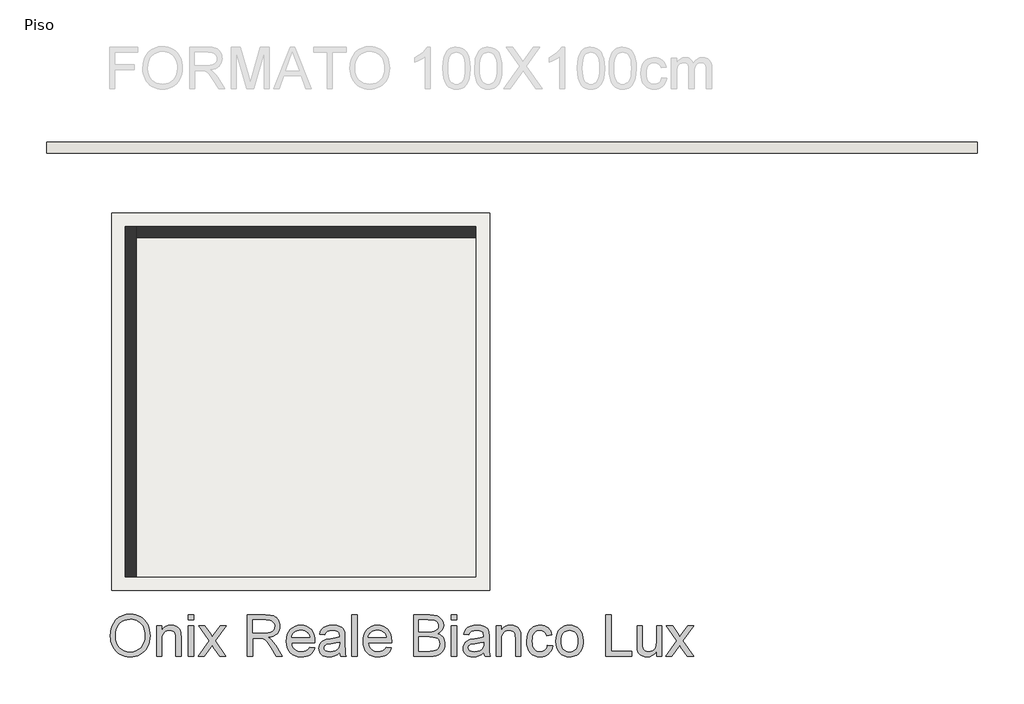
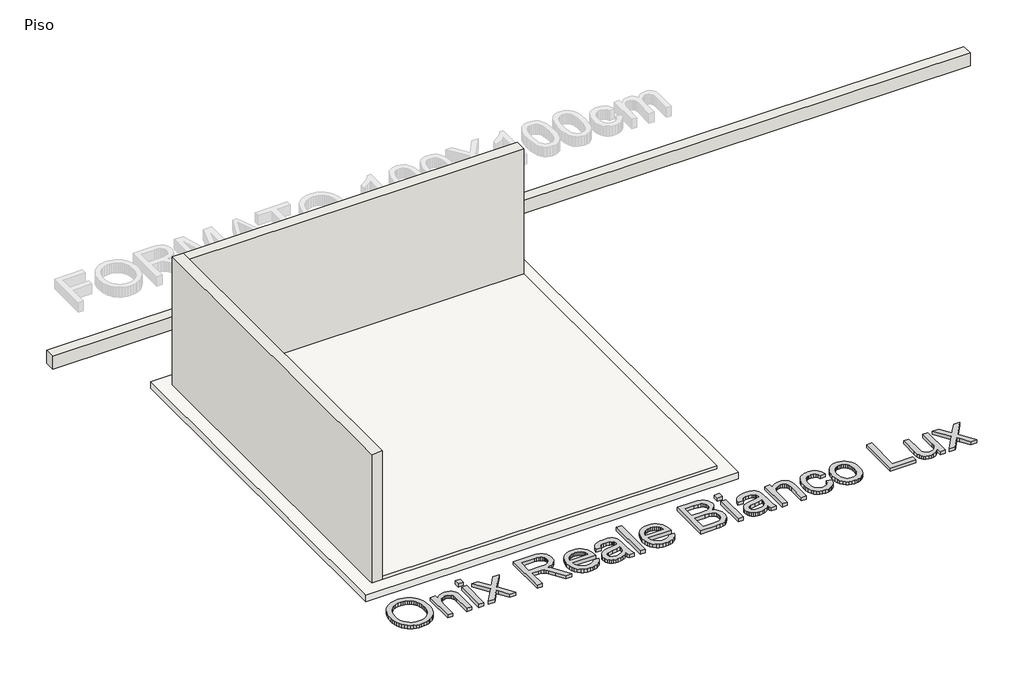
# One storey, part 1 of 2: 3 walls, 2 slabs, 1 proxy.
"""IFC4 building model written with IfcOpenShell, lengths in millimetres."""

from ifc_helpers import new_model, si_unit, frame, origin, origin_with_axes, place, context, project, spatial, polyline, outline, extrude, faceted_brep, element, save

model = new_model("IFC4")

# Units and contexts
model_context = context("Model", 3, world=origin())
ifc_project = project(units=[si_unit("LENGTHUNIT", "METRE", prefix="MILLI")], contexts=[model_context])

# Site, building, storey
site = spatial("IfcSite", under=ifc_project)
building = spatial("IfcBuilding", under=site)
storey = spatial("IfcBuildingStorey", under=building, Name="Piso", Elevation=0.0)

# Proxy
placement = place(None, origin())
element("IfcBuildingElementProxy", 1, Name="600mm Arial", ObjectType="600mm Arial", at=placement, inside=storey, context=model_context, shape_type="SweptSolid", body=[
    extrude(outline(polyline([(92612.6332015, -5241.8524376), (92617.6547907, -5171.1547152), (92632.7195584, -5108.5687907), (92657.8275046, -5054.0946643), (92674.1476696, -5029.8995253), (92692.9786292, -5007.7323359), (92736.0668079, -4970.7142101), (92784.9859162, -4944.2726917), (92839.7359542, -4928.4077807), (92900.3169217, -4923.119477), (92940.8667146, -4925.6026804), (92979.3747625, -4933.0522908), (93015.8410652, -4945.4683082), (93050.2656229, -4962.8507325), (93081.6827453, -4984.6753318), (93109.1267422, -5010.4178744), (93132.5976135, -5040.0783603), (93152.0953592, -5073.6567894), (93167.4176443, -5110.3898066), (93178.3621337, -5149.5140568), (93184.9288273, -5191.02954), (93187.1177251, -5234.9362561), (93184.8138642, -5279.4223864), (93177.9022812, -5321.4988896), (93166.3829762, -5361.1657657), (93150.2559492, -5398.4230147), (93129.9028778, -5432.2865524), (93105.7054396, -5461.7722943), (93077.6636345, -5486.8802405), (93045.7774626, -5507.6103909), (93011.3023211, -5523.8339869), (92975.4936074, -5535.4222698), (92938.3513215, -5542.3752395), (92899.8754633, -5544.692896), (92858.6174976, -5542.1315176), (92819.603612, -5534.4473825), (92782.8338065, -5521.6404905), (92748.3080813, -5503.7108418), (92716.9277471, -5481.3528135), (92689.5941149, -5455.260783), (92666.3071846, -5425.4347502), (92647.0669562, -5391.8747152), (92632.0021885, -5355.9280458), (92621.2416402, -5318.9421097), (92614.7853112, -5280.916907), (92612.6332015, -5241.8524376)]), holes=[polyline([(92687.9754341, -5242.5882016), (92691.741626, -5292.5373795), (92703.0402018, -5336.876357), (92721.8711614, -5375.605134), (92748.2345049, -5408.7237106), (92780.2816252, -5435.2480025), (92816.1639153, -5454.1939252), (92855.8813752, -5465.5614789), (92899.4340049, -5469.3506634), (92943.7315957, -5465.5246907), (92983.9181051, -5454.0467724), (93019.9935333, -5434.9169087), (93051.9578801, -5408.1350994), (93078.1280856, -5374.317547), (93096.8210894, -5334.0804538), (93108.0368918, -5287.4238198), (93111.7754925, -5234.3476449), (93110.1752059, -5199.8679049), (93105.3743458, -5167.6506392), (93097.3729124, -5137.6958477), (93086.1709057, -5110.0035305), (93071.8924857, -5084.9369711), (93054.6618128, -5062.8594528), (93034.4788868, -5043.7709758), (93011.3437079, -5027.67154), (92985.9736458, -5014.8922392), (92959.0860704, -5005.7641672), (92930.6809819, -5000.287324), (92900.7583801, -4998.4617096), (92858.7186651, -5001.9795812), (92819.7139766, -5012.5331959), (92783.7443145, -5030.1225538), (92750.8096789, -5054.7476549), (92723.3196968, -5087.5949185), (92703.6839953, -5129.8507642), (92691.9025744, -5181.5151919), (92687.9754341, -5242.5882016)])]), origin_with_axes(), (0.0, 0.0, 1.0), 50.0),
    extrude(outline(polyline([(93281.2955159, -5535.275117), (93281.2955159, -5092.6395004), (93356.6377485, -5092.6395004), (93356.6377485, -5154.4436755), (93382.8125525, -5123.2840706), (93414.248069, -5101.0272098), (93450.944298, -5087.6730934), (93492.9012395, -5083.2217213), (93530.038927, -5086.8085707), (93564.0496174, -5097.5691191), (93592.4133192, -5114.1605971), (93612.6100408, -5135.2402354), (93626.3136451, -5160.7528518), (93635.1979953, -5190.6432639), (93639.1711208, -5263.4838989), (93639.1711208, -5535.275117), (93563.8288882, -5535.275117), (93563.8288882, -5273.637442), (93561.6583844, -5234.6787387), (93555.1468731, -5206.9772245), (93543.135526, -5187.1299908), (93524.4655147, -5171.7341293), (93500.5347909, -5161.8564977), (93472.7413062, -5158.5639539), (93449.8636446, -5160.4125609), (93428.6138609, -5165.958382), (93408.991955, -5175.2014171), (93390.9979269, -5188.1416663), (93375.9653488, -5206.2506575), (93365.2277931, -5230.9999187), (93358.7852597, -5262.38945), (93356.6377485, -5300.4192512), (93356.6377485, -5535.275117), (93281.2955159, -5535.275117)])), origin_with_axes(), (0.0, 0.0, 1.0), 50.0),
    extrude(outline(polyline([(93742.7666907, -5007.8794887), (93742.7666907, -4932.5372561), (93818.1089233, -4932.5372561), (93818.1089233, -5007.8794887), (93742.7666907, -5007.8794887)])), origin_with_axes(), (0.0, 0.0, 1.0), 50.0),
    extrude(outline(polyline([(93742.7666907, -5535.275117), (93742.7666907, -5092.6395004), (93818.1089233, -5092.6395004), (93818.1089233, -5535.275117), (93742.7666907, -5535.275117)])), origin_with_axes(), (0.0, 0.0, 1.0), 50.0),
    extrude(outline(polyline([(93884.0333768, -5535.275117), (94045.0185379, -5312.7800863), (93893.4511559, -5092.6395004), (93984.0972795, -5092.6395004), (94057.2322201, -5198.589515), (94091.3716693, -5248.6214663), (94120.9493817, -5207.7129884), (94204.2378654, -5092.6395004), (94294.883989, -5092.6395004), (94135.6646615, -5312.7800863), (94288.9978771, -5535.275117), (94198.3517535, -5535.275117), (94106.0869491, -5401.5132235), (94089.1643773, -5377.085859), (93974.6795004, -5535.275117), (93884.0333768, -5535.275117)])), origin_with_axes(), (0.0, 0.0, 1.0), 50.0),
    extrude(outline(polyline([(94599.7845866, -5535.275117), (94599.7845866, -4932.5372561), (94859.5092752, -4932.5372561), (94929.3148838, -4936.6023521), (94980.1009932, -4948.7976402), (94999.6999065, -4958.4913308), (95017.2202866, -4971.3120183), (95032.6621333, -4987.2597028), (95046.0254468, -5006.3343843), (95056.8089878, -5027.5105916), (95064.511517, -5049.7628538), (95069.1330346, -5073.0911708), (95070.6735405, -5097.4955427), (95068.1213591, -5128.4528126), (95060.4648151, -5156.8716967), (95047.7039084, -5182.7521951), (95029.838639, -5206.0943077), (95006.6390807, -5226.1530735), (94977.8753072, -5242.1835314), (94943.5473185, -5254.1856815), (94903.6551146, -5262.1595237), (94928.4871493, -5278.3831197), (94946.4765789, -5294.3859865), (94977.3418783, -5330.990245), (95007.5449901, -5371.9355111), (95108.0503512, -5535.275117), (95020.4944363, -5535.275117), (94942.0619949, -5410.3423914), (94885.4081677, -5327.6425189), (94864.3469235, -5303.5278541), (94845.6033358, -5288.573451), (94809.7716295, -5274.2260532), (94766.0672484, -5271.5773028), (94675.1268192, -5271.5773028), (94675.1268192, -5535.275117), (94599.7845866, -5535.275117)]), holes=[polyline([(94675.1268192, -5196.2350702), (94843.7639258, -5196.2350702), (94892.1955905, -5193.5679257), (94929.7747363, -5185.5664923), (94958.0648617, -5171.6973411), (94978.6294653, -5151.4270432), (94991.1558472, -5126.9077082), (94995.3313078, -5100.2914459), (94993.3401465, -5081.0236264), (94987.3666626, -5063.5400345), (94977.4108562, -5047.8406704), (94963.4727271, -5033.9255339), (94945.2303786, -5022.5303891), (94922.3619141, -5014.391), (94894.8673335, -5009.5073665), (94862.7466368, -5007.8794887), (94675.1268192, -5007.8794887), (94675.1268192, -5196.2350702)])]), origin_with_axes(), (0.0, 0.0, 1.0), 50.0),
    extrude(outline(polyline([(95503.0084612, -5403.4262099), (95576.8791658, -5412.843989), (95565.5529989, -5442.4308984), (95550.2629035, -5468.5045348), (95531.0088795, -5491.0648982), (95507.7909271, -5510.1119885), (95480.8481695, -5525.2411355), (95450.41973, -5536.0476691), (95416.5056085, -5542.5315893), (95379.1058052, -5544.692896), (95332.3572007, -5540.9634923), (95290.7037618, -5529.7752811), (95254.1454885, -5511.1282625), (95222.6823809, -5485.0224364), (95197.3812966, -5452.1843698), (95179.3090936, -5413.3406297), (95168.4657718, -5368.4912159), (95164.8513312, -5317.6361286), (95168.50256, -5265.0565944), (95179.4562464, -5218.7126601), (95197.7123904, -5178.6043256), (95223.2709921, -5144.7315909), (95254.6513262, -5117.8210229), (95290.372668, -5098.5991887), (95330.4350172, -5087.0660881), (95374.8383741, -5083.2217213), (95417.8115896, -5087.0568911), (95456.6737239, -5098.5624005), (95491.4247769, -5117.7382495), (95522.0647485, -5144.5844381), (95547.0761257, -5178.3835964), (95564.9413951, -5218.4183545), (95575.6605567, -5264.6887125), (95579.2336106, -5317.1946702), (95578.7921522, -5337.5017563), (95240.1935638, -5337.5017563), (95244.557564, -5367.5669124), (95253.2349806, -5393.8980662), (95266.2258135, -5416.4952178), (95283.5300629, -5435.3583671), (95304.1912354, -5450.2299967), (95327.252838, -5460.8525893), (95352.7148706, -5467.2261449), (95380.5773332, -5469.3506634), (95420.6764707, -5465.4143261), (95454.4480378, -5453.605314), (95481.8920347, -5433.1878633), (95503.0084612, -5403.4262099)]), holes=[polyline([(95240.1935638, -5262.1595237), (95503.891378, -5262.1595237), (95493.7010467, -5222.3546919), (95484.9362582, -5206.701313), (95473.7250544, -5193.8806254), (95453.1788449, -5178.4295816), (95429.7999441, -5167.3931218), (95403.588352, -5160.7712459), (95374.5440685, -5158.5639539), (95348.0519663, -5160.3251889), (95323.757959, -5165.6088941), (95301.6620467, -5174.4150694), (95281.7642293, -5186.7437147), (95265.0669852, -5202.0246131), (95252.572793, -5219.6875474), (95244.2816525, -5239.7325176), (95240.1935638, -5262.1595237)])]), origin_with_axes(), (0.0, 0.0, 1.0), 50.0),
    extrude(outline(polyline([(95937.1092155, -5478.7684425), (95901.1119623, -5509.6337419), (95864.0478513, -5529.8304634), (95825.0707539, -5540.9772879), (95783.3345415, -5544.692896), (95749.7883021, -5542.4580129), (95720.371538, -5535.7533635), (95695.0842494, -5524.5789479), (95673.9264361, -5508.9347661), (95657.219995, -5489.8140994), (95645.2868228, -5468.2102292), (95638.1269195, -5444.1231556), (95635.740285, -5417.5528785), (95639.3455286, -5386.3196971), (95650.1612593, -5357.9559953), (95666.8447077, -5333.6757836), (95688.0531048, -5314.6930726), (95712.9771099, -5300.3456748), (95740.8073829, -5289.9714026), (95805.9960724, -5278.6406371), (95883.0305622, -5266.7212605), (95936.6677571, -5252.7417447), (95937.1092155, -5235.9663257), (95931.9220794, -5202.3419113), (95925.4381592, -5189.8891058), (95916.360671, -5180.342568), (95900.6705039, -5170.8144243), (95881.5590342, -5164.0086074), (95833.0721873, -5158.5639539), (95788.1905838, -5162.1875915), (95756.8470379, -5173.0585045), (95735.4730939, -5193.1632555), (95720.5002967, -5224.4884074), (95645.1580641, -5215.0706284), (95658.2362691, -5173.8678449), (95677.7524089, -5141.4942293), (95705.5274995, -5116.735771), (95743.3825568, -5098.3784595), (95789.6805059, -5087.0109058), (95842.7842719, -5083.2217213), (95893.7175342, -5086.5694474), (95934.0925831, -5096.6126259), (95964.5348182, -5111.7141818), (95985.6696389, -5130.2370403), (95999.6859429, -5153.1376945), (96008.7726282, -5181.3726376), (96012.4514481, -5247.2970911), (96012.4514481, -5341.0334235), (96016.2774209, -5471.9258374), (96021.9428036, -5504.2810589), (96031.2870063, -5535.275117), (95955.9447736, -5535.275117), (95943.8782442, -5509.0819189), (95937.1092155, -5478.7684425)]), holes=[polyline([(95937.1092155, -5328.0839773), (95886.488653, -5340.6287533), (95815.5610043, -5351.1869666), (95750.7401967, -5363.4006488), (95733.8728073, -5371.7515701), (95721.3832135, -5383.2662765), (95713.6576916, -5397.0618514), (95711.0825177, -5412.2553778), (95716.6927181, -5434.6593913), (95733.5233194, -5453.0167028), (95761.2064395, -5465.2671733), (95799.3741965, -5469.3506634), (95839.841216, -5464.844109), (95875.5993459, -5451.3244457), (95904.5884471, -5431.4036356), (95924.7483805, -5407.693641), (95933.6879129, -5383.2662765), (95936.6677571, -5349.421133), (95937.1092155, -5328.0839773)])]), origin_with_axes(), (0.0, 0.0, 1.0), 50.0),
    extrude(outline(polyline([(96116.0470179, -5535.275117), (96116.0470179, -4932.5372561), (96191.3892506, -4932.5372561), (96191.3892506, -5535.275117), (96116.0470179, -5535.275117)])), origin_with_axes(), (0.0, 0.0, 1.0), 50.0),
    extrude(outline(polyline([(96614.3063922, -5403.4262099), (96688.1770968, -5412.843989), (96676.8509299, -5442.4308984), (96661.5608345, -5468.5045348), (96642.3068106, -5491.0648982), (96619.0888582, -5510.1119885), (96592.1461005, -5525.2411355), (96561.717661, -5536.0476691), (96527.8035396, -5542.5315893), (96490.4037362, -5544.692896), (96443.6551317, -5540.9634923), (96402.0016928, -5529.7752811), (96365.4434195, -5511.1282625), (96333.9803119, -5485.0224364), (96308.6792277, -5452.1843698), (96290.6070247, -5413.3406297), (96279.7637029, -5368.4912159), (96276.1492622, -5317.6361286), (96279.8004911, -5265.0565944), (96290.7541775, -5218.7126601), (96309.0103215, -5178.6043256), (96334.5689231, -5144.7315909), (96365.9492573, -5117.8210229), (96401.670599, -5098.5991887), (96441.7329483, -5087.0660881), (96486.1363051, -5083.2217213), (96529.1095207, -5087.0568911), (96567.9716549, -5098.5624005), (96602.7227079, -5117.7382495), (96633.3626796, -5144.5844381), (96658.3740567, -5178.3835964), (96676.2393261, -5218.4183545), (96686.9584877, -5264.6887125), (96690.5315416, -5317.1946702), (96690.0900832, -5337.5017563), (96351.4914949, -5337.5017563), (96355.855495, -5367.5669124), (96364.5329116, -5393.8980662), (96377.5237445, -5416.4952178), (96394.8279939, -5435.3583671), (96415.4891664, -5450.2299967), (96438.550769, -5460.8525893), (96464.0128016, -5467.2261449), (96491.8752642, -5469.3506634), (96531.9744017, -5465.4143261), (96565.7459689, -5453.605314), (96593.1899657, -5433.1878633), (96614.3063922, -5403.4262099)]), holes=[polyline([(96351.4914949, -5262.1595237), (96615.189309, -5262.1595237), (96604.9989777, -5222.3546919), (96596.2341892, -5206.701313), (96585.0229854, -5193.8806254), (96564.476776, -5178.4295816), (96541.0978752, -5167.3931218), (96514.886283, -5160.7712459), (96485.8419995, -5158.5639539), (96459.3498973, -5160.3251889), (96435.0558901, -5165.6088941), (96412.9599777, -5174.4150694), (96393.0621603, -5186.7437147), (96376.3649163, -5202.0246131), (96363.870724, -5219.6875474), (96355.5795835, -5239.7325176), (96351.4914949, -5262.1595237)])]), origin_with_axes(), (0.0, 0.0, 1.0), 50.0),
    extrude(outline(polyline([(97010.7360302, -5535.275117), (97010.7360302, -4932.5372561), (97240.7358536, -4932.5372561), (97303.9931627, -4936.9702341), (97353.3813205, -4950.2691682), (97373.4584804, -4960.3261423), (97391.2363778, -4972.7651522), (97406.7150128, -4987.5861981), (97419.8943853, -5004.7892799), (97437.9389971, -5042.4603962), (97443.9538677, -5081.8973461), (97438.8954903, -5118.1889049), (97423.720358, -5152.30996), (97398.3181062, -5182.1635839), (97362.5783704, -5205.6528493), (97385.3180762, -5215.3465398), (97405.2710759, -5227.9464982), (97422.4373695, -5243.4527243), (97436.816957, -5261.8652181), (97448.1799122, -5282.6229597), (97456.2963087, -5305.164929), (97461.1661466, -5329.4911259), (97462.7894259, -5355.6015505), (97458.3564478, -5397.6320685), (97445.0575137, -5436.6091658), (97425.2102801, -5469.7553336), (97401.1324035, -5494.2930627), (97371.6466616, -5512.0617631), (97335.575832, -5524.9008447), (97291.7426922, -5532.6815489), (97238.97002, -5535.275117), (97010.7360302, -5535.275117)]), holes=[polyline([(97086.0782628, -5177.399512), (97223.666129, -5177.399512), (97271.785094, -5175.7808313), (97304.0115568, -5170.9247889), (97332.1361353, -5159.7595704), (97352.3512509, -5143.0393337), (97364.5465391, -5121.0215963), (97368.6116351, -5093.9638755), (97364.8224506, -5067.6971011), (97353.4548969, -5044.814841), (97335.024009, -5026.9541701), (97310.0448215, -5015.7521634), (97271.7115176, -5009.8476573), (97213.2182804, -5007.8794887), (97086.0782628, -5007.8794887), (97086.0782628, -5177.399512)]), polyline([(97086.0782628, -5459.9328843), (97240.5887008, -5459.9328843), (97296.5067641, -5456.9898284), (97322.4608388, -5450.459923), (97343.8163887, -5440.5822914), (97361.1804188, -5426.4372287), (97375.1599346, -5407.1050298), (97384.3753786, -5383.4502175), (97387.4471933, -5356.3373145), (97383.8419497, -5324.8466157), (97373.0262191, -5297.7705009), (97354.1354786, -5276.598892), (97326.3052057, -5262.8217113), (97286.8866499, -5255.2617363), (97233.2310609, -5252.7417447), (97086.0782628, -5252.7417447), (97086.0782628, -5459.9328843)])]), origin_with_axes(), (0.0, 0.0, 1.0), 50.0),
    extrude(outline(polyline([(97556.9672167, -5535.275117), (97556.9672167, -5092.6395004), (97632.3094493, -5092.6395004), (97632.3094493, -5535.275117), (97556.9672167, -5535.275117)])), origin_with_axes(), (0.0, 0.0, 1.0), 50.0),
    extrude(outline(polyline([(97556.9672167, -5007.8794887), (97556.9672167, -4932.5372561), (97632.3094493, -4932.5372561), (97632.3094493, -5007.8794887), (97556.9672167, -5007.8794887)])), origin_with_axes(), (0.0, 0.0, 1.0), 50.0),
    extrude(outline(polyline([(98027.8561705, -5478.7684425), (97991.8589173, -5509.6337419), (97954.7948062, -5529.8304634), (97915.8177089, -5540.9772879), (97874.0814965, -5544.692896), (97840.5352571, -5542.4580129), (97811.118493, -5535.7533635), (97785.8312044, -5524.5789479), (97764.6733911, -5508.9347661), (97747.96695, -5489.8140994), (97736.0337778, -5468.2102292), (97728.8738745, -5444.1231556), (97726.48724, -5417.5528785), (97730.0924836, -5386.3196971), (97740.9082142, -5357.9559953), (97757.5916627, -5333.6757836), (97778.8000597, -5314.6930726), (97803.7240649, -5300.3456748), (97831.5543379, -5289.9714026), (97896.7430274, -5278.6406371), (97973.7775172, -5266.7212605), (98027.4147121, -5252.7417447), (98027.8561705, -5235.9663257), (98022.6690344, -5202.3419113), (98016.1851142, -5189.8891058), (98007.107626, -5180.342568), (97991.4174589, -5170.8144243), (97972.3059892, -5164.0086074), (97923.8191422, -5158.5639539), (97878.9375388, -5162.1875915), (97847.5939928, -5173.0585045), (97826.2200489, -5193.1632555), (97811.2472517, -5224.4884074), (97735.9050191, -5215.0706284), (97748.983224, -5173.8678449), (97768.4993639, -5141.4942293), (97796.2744545, -5116.735771), (97834.1295118, -5098.3784595), (97880.4274609, -5087.0109058), (97933.5312269, -5083.2217213), (97984.4644892, -5086.5694474), (98024.8395381, -5096.6126259), (98055.2817732, -5111.7141818), (98076.4165938, -5130.2370403), (98090.4328979, -5153.1376945), (98099.5195831, -5181.3726376), (98103.1984031, -5247.2970911), (98103.1984031, -5341.0334235), (98107.0243758, -5471.9258374), (98112.6897586, -5504.2810589), (98122.0339612, -5535.275117), (98046.6917286, -5535.275117), (98034.6251992, -5509.0819189), (98027.8561705, -5478.7684425)]), holes=[polyline([(98027.8561705, -5328.0839773), (97977.2356079, -5340.6287533), (97906.3079593, -5351.1869666), (97841.4871517, -5363.4006488), (97824.6197622, -5371.7515701), (97812.1301685, -5383.2662765), (97804.4046466, -5397.0618514), (97801.8294726, -5412.2553778), (97807.4396731, -5434.6593913), (97824.2702744, -5453.0167028), (97851.9533945, -5465.2671733), (97890.1211515, -5469.3506634), (97930.588171, -5464.844109), (97966.3463009, -5451.3244457), (97995.3354021, -5431.4036356), (98015.4953354, -5407.693641), (98024.4348679, -5383.2662765), (98027.4147121, -5349.421133), (98027.8561705, -5328.0839773)])]), origin_with_axes(), (0.0, 0.0, 1.0), 50.0),
    extrude(outline(polyline([(98206.7939729, -5535.275117), (98206.7939729, -5092.6395004), (98282.1362055, -5092.6395004), (98282.1362055, -5154.4436755), (98308.3110095, -5123.2840706), (98339.746526, -5101.0272098), (98376.442755, -5087.6730934), (98418.3996966, -5083.2217213), (98455.537384, -5086.8085707), (98489.5480744, -5097.5691191), (98517.9117763, -5114.1605971), (98538.1084978, -5135.2402354), (98551.8121021, -5160.7528518), (98560.6964523, -5190.6432639), (98564.6695778, -5263.4838989), (98564.6695778, -5535.275117), (98489.3273452, -5535.275117), (98489.3273452, -5273.637442), (98487.1568415, -5234.6787387), (98480.6453301, -5206.9772245), (98468.633983, -5187.1299908), (98449.9639717, -5171.7341293), (98426.033248, -5161.8564977), (98398.2397632, -5158.5639539), (98375.3621017, -5160.4125609), (98354.1123179, -5165.958382), (98334.490412, -5175.2014171), (98316.4963839, -5188.1416663), (98301.4638059, -5206.2506575), (98290.7262501, -5230.9999187), (98284.2837167, -5262.38945), (98282.1362055, -5300.4192512), (98282.1362055, -5535.275117), (98206.7939729, -5535.275117)])), origin_with_axes(), (0.0, 0.0, 1.0), 50.0),
    extrude(outline(polyline([(98950.79852, -5375.1728727), (99026.1407526, -5384.5906517), (99017.9461812, -5420.141848), (99005.1346907, -5451.6003572), (98987.7062811, -5478.9661791), (98965.6609526, -5502.2393138), (98939.927607, -5520.812756), (98911.4351465, -5534.0795005), (98880.183571, -5542.0395471), (98846.1728806, -5544.692896), (98803.9170349, -5540.9910835), (98766.0297879, -5529.8856457), (98732.5111396, -5511.3765828), (98703.36109, -5485.4638948), (98679.7660586, -5452.6350253), (98662.9124647, -5413.3774179), (98652.8003083, -5367.6910726), (98649.4295895, -5315.5759894), (98655.1869428, -5248.5294958), (98662.3836343, -5218.3585737), (98672.4590024, -5190.4225347), (98685.4820251, -5165.2823988), (98701.5216801, -5143.4991862), (98720.5779674, -5125.0728968), (98742.6508871, -5110.0035305), (98766.7425593, -5098.286489), (98791.855104, -5089.9171736), (98817.9885212, -5084.8955844), (98845.142811, -5083.2217213), (98878.5694888, -5085.5209837), (98908.8047902, -5092.4187712), (98935.8487154, -5103.9150835), (98959.7012643, -5120.0099208), (98979.9577666, -5140.335401), (98996.2135523, -5164.5236422), (99008.4686213, -5192.5746443), (99016.7229735, -5224.4884074), (98941.3807409, -5233.9061865), (98927.7139248, -5201.0359302), (98906.4319514, -5177.4730884), (98878.712043, -5163.2912375), (98845.7314222, -5158.5639539), (98820.1314338, -5160.8908075), (98797.0422401, -5167.8713684), (98776.463841, -5179.5056365), (98758.3962365, -5195.7936118), (98743.6855552, -5217.1123734), (98733.1779257, -5243.8390004), (98726.873348, -5275.9734927), (98724.7718221, -5313.5158503), (98726.8273628, -5351.6238264), (98732.9939847, -5384.1307992), (98743.271688, -5411.0367687), (98757.6604725, -5432.3417347), (98775.3693921, -5448.533141), (98795.6075003, -5460.0984312), (98818.3747973, -5467.0376054), (98843.671283, -5469.3506634), (98882.6851686, -5463.5749161), (98899.5571566, -5456.3552319), (98914.6725081, -5446.2476741), (98927.6081587, -5433.141878), (98937.9410443, -5416.9274791), (98945.6711647, -5397.6044773), (98950.79852, -5375.1728727)])), origin_with_axes(), (0.0, 0.0, 1.0), 50.0),
    extrude(outline(polyline([(99073.229648, -5313.9573087), (99077.3039411, -5256.6320968), (99089.5268204, -5207.2347419), (99109.8982858, -5165.7652439), (99138.4183375, -5132.223603), (99167.1315272, -5110.7852798), (99198.8245611, -5095.4721917), (99233.4974392, -5086.2843389), (99271.1501614, -5083.2217213), (99312.7162283, -5086.951125), (99350.2999726, -5098.1393362), (99383.9013944, -5116.7863548), (99413.5204935, -5142.8921809), (99437.6949391, -5175.5738976), (99454.9624003, -5213.9485883), (99465.322877, -5258.0162528), (99468.7763692, -5307.7768911), (99467.2496589, -5348.1059549), (99462.6695281, -5383.8916759), (99455.0359767, -5415.1340544), (99444.3490047, -5441.8330902), (99430.7419694, -5464.8946928), (99414.348228, -5485.2247715), (99395.1677805, -5502.8233265), (99373.2006268, -5517.6903576), (99349.3020927, -5529.5039682), (99324.3275038, -5537.9422614), (99298.27686, -5543.0052374), (99271.1501614, -5544.692896), (99228.9770892, -5540.9772879), (99191.0438569, -5529.8304634), (99157.3504647, -5511.2524227), (99127.8969125, -5485.2431656), (99103.9799842, -5452.2441506), (99086.8964641, -5412.6968362), (99076.646352, -5366.6012222), (99073.229648, -5313.9573087)]), holes=[polyline([(99148.5718806, -5313.8101559), (99150.7515814, -5350.3546336), (99157.2906839, -5381.9970837), (99168.189188, -5408.7375062), (99183.4470937, -5430.5759011), (99202.0067404, -5447.5398596), (99222.8104672, -5459.6569728), (99245.8582742, -5466.9272408), (99271.1501614, -5469.3506634), (99296.3132899, -5466.9134452), (99319.2691264, -5459.6017905), (99340.0176709, -5447.4156995), (99358.5589234, -5430.3551719), (99373.8168292, -5408.3006463), (99384.7153333, -5381.132561), (99391.2544358, -5348.8509159), (99393.4341366, -5311.4557111), (99391.2406402, -5276.0700617), (99384.660151, -5245.2553461), (99373.692669, -5219.0115642), (99358.3381942, -5197.3387162), (99339.7279638, -5180.3747577), (99318.9932149, -5168.2576445), (99296.1339474, -5160.9873765), (99271.1501614, -5158.5639539), (99245.8582742, -5160.9781795), (99222.8104672, -5168.2208563), (99202.0067404, -5180.2919842), (99183.4470937, -5197.1915634), (99168.189188, -5218.965579), (99157.2906839, -5245.6600163), (99150.7515814, -5277.2748752), (99148.5718806, -5313.8101559)])]), origin_with_axes(), (0.0, 0.0, 1.0), 50.0),
    extrude(outline(polyline([(99798.3986369, -5535.275117), (99798.3986369, -4932.5372561), (99873.7408695, -4932.5372561), (99873.7408695, -5459.9328843), (100175.1097999, -5459.9328843), (100175.1097999, -5535.275117), (99798.3986369, -5535.275117)])), origin_with_axes(), (0.0, 0.0, 1.0), 50.0),
    extrude(outline(polyline([(100532.9854048, -5535.275117), (100532.9854048, -5459.1971204), (100505.725349, -5496.6015222), (100473.9771328, -5523.3189521), (100437.7407563, -5539.34941), (100397.0162194, -5544.692896), (100360.3199904, -5540.9404997), (100326.1621472, -5529.6833106), (100297.5041397, -5512.7607388), (100277.3074182, -5492.0121943), (100263.7141785, -5466.8122777), (100254.8666165, -5436.5355894), (100250.4520325, -5366.4908576), (100250.4520325, -5092.6395004), (100325.7942652, -5092.6395004), (100325.7942652, -5331.0270332), (100326.9346993, -5378.7045398), (100330.3560019, -5407.8407938), (100341.3372795, -5433.4637748), (100360.1544435, -5452.9431264), (100385.5566953, -5465.2487792), (100416.293236, -5469.3506634), (100448.7956102, -5465.1568087), (100479.2010571, -5452.5752444), (100504.2722151, -5432.764799), (100520.7717226, -5406.8843006), (100529.9319843, -5371.4388704), (100532.9854048, -5322.9336293), (100532.9854048, -5092.6395004), (100608.3276375, -5092.6395004), (100608.3276375, -5535.275117), (100532.9854048, -5535.275117)])), origin_with_axes(), (0.0, 0.0, 1.0), 50.0),
    extrude(outline(polyline([(100664.8343119, -5535.275117), (100825.819473, -5312.7800863), (100674.252091, -5092.6395004), (100764.8982146, -5092.6395004), (100838.0331552, -5198.589515), (100872.1726044, -5248.6214663), (100901.7503168, -5207.7129884), (100985.0388005, -5092.6395004), (101075.6849241, -5092.6395004), (100916.4655966, -5312.7800863), (101069.7988122, -5535.275117), (100979.1526886, -5535.275117), (100886.8878842, -5401.5132235), (100869.9653124, -5377.085859), (100755.4804355, -5535.275117), (100664.8343119, -5535.275117)])), origin_with_axes(), (0.0, 0.0, 1.0), 50.0),
])

# Slabs
element("IfcSlab", 2, ObjectType="5cm - Porcelanato Onix Reale Bianco Lux  - Polido 100x100", at=placement, inside=storey, context=model_context, shape_type="SweptSolid", body=[
    extrude(outline(polyline([(97910.5767656, 540.8585143), (97910.5767656, -4379.7414857), (92989.9767656, -4379.7414857), (92989.9767656, 540.8585143), (97910.5767656, 540.8585143)])), origin_with_axes(), (0.0, 0.0, 1.0), 50.0),
])
element("IfcSlab", 3, ObjectType="CO02 - Concreto Estrutural Simples", at=placement, inside=storey, context=model_context, shape_type="SweptSolid", body=[
    extrude(outline(polyline([(98110.5767656, 899.6585143), (98110.5767656, -4579.7414857), (92631.1767656, -4579.7414857), (92631.1767656, 899.6585143), (98110.5767656, 899.6585143)])), frame((0.0, 0.0, -100.0), z_axis=(0.0, 0.0, 1.0), x_axis=(1.0, 0.0, 0.0)), (0.0, 0.0, 1.0), 100.0),
])

# Walls
element("IfcWall", 4, ObjectType="CO01 - Bloco de Concreto 14cm / Pintura Branca Simples", at=placement, inside=storey, context=model_context, shape_type="SweptSolid", body=[
    extrude(outline(polyline([(105186.699165, 1765.7486968), (91686.699165, 1765.7486968), (91686.699165, 1924.5486968), (105186.699165, 1924.5486968), (105186.699165, 1765.7486968)])), origin_with_axes(), (0.0, 0.0, 1.0), 200.0),
])
element("IfcWall", 5, ObjectType="CO01 - Bloco de Concreto 14cm / Pintura Branca Simples", at=placement, inside=storey, context=model_context, shape_type="Brep", body=[
    faceted_brep([(92989.9767656, -4379.7414857, 0.0), (92989.9767656, 540.8585143, 0.0), (92989.9767656, 699.6585143, 0.0), (92989.9767656, 699.6585143, 2000.0), (92989.9767656, 540.8585143, 2000.0), (92989.9767656, -4379.7414857, 2000.0), (92831.1767656, -4379.7414857, 0.0), (92831.1767656, -4379.7414857, 2000.0), (92831.1767656, 699.6585143, 2000.0), (92831.1767656, 699.6585143, 0.0)], [[[0, 1, 2, 3, 4, 5]], [[6, 7, 8, 9]], [[2, 1, 0, 6, 9]], [[5, 4, 3, 8, 7]], [[0, 5, 7, 6]], [[3, 2, 9, 8]]]),
])
element("IfcWall", 6, ObjectType="CO01 - Bloco de Concreto 14cm / Pintura Branca Simples", at=placement, inside=storey, context=model_context, shape_type="SweptSolid", body=[
    extrude(outline(polyline([(97910.5767656, 540.8585143), (92989.9767656, 540.8585143), (92989.9767656, 699.6585143), (97910.5767656, 699.6585143), (97910.5767656, 540.8585143)])), origin_with_axes(), (0.0, 0.0, 1.0), 2000.0),
])

save(model, "model.ifc")
